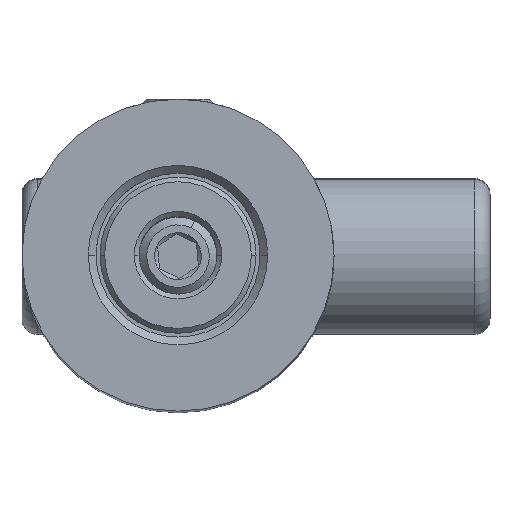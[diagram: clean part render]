
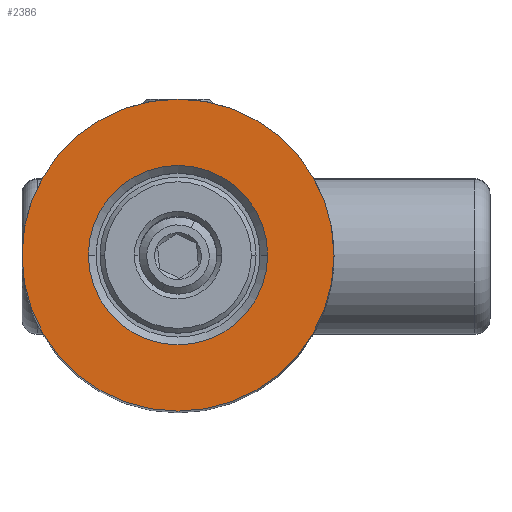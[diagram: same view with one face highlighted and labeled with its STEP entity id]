
A CAD part, top view. The second image highlights one B-rep face of the part: STEP entity #2386.
In plain terms, the highlighted planar face has unit normal (0, 0, 1).
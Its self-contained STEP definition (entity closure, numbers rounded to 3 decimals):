
#59 = DIRECTION ( 'NONE',  ( 0., 0., -1. ) ) ;
#199 = DIRECTION ( 'NONE',  ( 1., 0., 0. ) ) ;
#241 = FACE_BOUND ( 'NONE', #2393, .T. ) ;
#250 = CARTESIAN_POINT ( 'NONE',  ( 5.75, 0., 65. ) ) ;
#340 = CIRCLE ( 'NONE', #1201, 10. ) ;
#360 = CARTESIAN_POINT ( 'NONE',  ( 10., 0., 65. ) ) ;
#369 = DIRECTION ( 'NONE',  ( 0., 0., 1. ) ) ;
#603 = DIRECTION ( 'NONE',  ( 1., 0., 0. ) ) ;
#837 = EDGE_CURVE ( 'NONE', #2186, #1972, #1155, .T. ) ;
#962 = EDGE_LOOP ( 'NONE', ( #1376, #2327 ) ) ;
#994 = CARTESIAN_POINT ( 'NONE',  ( -5.75, 0., 65. ) ) ;
#1023 = DIRECTION ( 'NONE',  ( 1., 0., 0. ) ) ;
#1091 = AXIS2_PLACEMENT_3D ( 'NONE', #2224, #59, #1023 ) ;
#1155 = CIRCLE ( 'NONE', #1560, 10. ) ;
#1201 = AXIS2_PLACEMENT_3D ( 'NONE', #3051, #369, #1792 ) ;
#1261 = DIRECTION ( 'NONE',  ( 0., 0., 1. ) ) ;
#1274 = EDGE_CURVE ( 'NONE', #2606, #1985, #2901, .T. ) ;
#1302 = DIRECTION ( 'NONE',  ( 0., 0., 1. ) ) ;
#1309 = ORIENTED_EDGE ( 'NONE', *, *, #1274, .T. ) ;
#1376 = ORIENTED_EDGE ( 'NONE', *, *, #2962, .T. ) ;
#1507 = FACE_OUTER_BOUND ( 'NONE', #962, .T. ) ;
#1560 = AXIS2_PLACEMENT_3D ( 'NONE', #2243, #1302, #603 ) ;
#1792 = DIRECTION ( 'NONE',  ( 1., 0., 0. ) ) ;
#1972 = VERTEX_POINT ( 'NONE', #2394 ) ;
#1985 = VERTEX_POINT ( 'NONE', #994 ) ;
#2046 = CIRCLE ( 'NONE', #1091, 5.75 ) ;
#2057 = EDGE_CURVE ( 'NONE', #1985, #2606, #2046, .T. ) ;
#2106 = DIRECTION ( 'NONE',  ( 0., 0., -1. ) ) ;
#2186 = VERTEX_POINT ( 'NONE', #360 ) ;
#2193 = PLANE ( 'NONE',  #2698 ) ;
#2224 = CARTESIAN_POINT ( 'NONE',  ( 0., 0., 65. ) ) ;
#2225 = DIRECTION ( 'NONE',  ( 1., 0., 0. ) ) ;
#2243 = CARTESIAN_POINT ( 'NONE',  ( 0., 0., 65. ) ) ;
#2327 = ORIENTED_EDGE ( 'NONE', *, *, #837, .T. ) ;
#2360 = ORIENTED_EDGE ( 'NONE', *, *, #2057, .T. ) ;
#2386 = ADVANCED_FACE ( 'NONE', ( #241, #1507 ), #2193, .T. ) ;
#2393 = EDGE_LOOP ( 'NONE', ( #1309, #2360 ) ) ;
#2394 = CARTESIAN_POINT ( 'NONE',  ( -10., 0., 65. ) ) ;
#2606 = VERTEX_POINT ( 'NONE', #250 ) ;
#2660 = CARTESIAN_POINT ( 'NONE',  ( 0., 0., 65. ) ) ;
#2693 = AXIS2_PLACEMENT_3D ( 'NONE', #2777, #2106, #199 ) ;
#2698 = AXIS2_PLACEMENT_3D ( 'NONE', #2660, #1261, #2225 ) ;
#2777 = CARTESIAN_POINT ( 'NONE',  ( 0., 0., 65. ) ) ;
#2901 = CIRCLE ( 'NONE', #2693, 5.75 ) ;
#2962 = EDGE_CURVE ( 'NONE', #1972, #2186, #340, .T. ) ;
#3051 = CARTESIAN_POINT ( 'NONE',  ( 0., 0., 65. ) ) ;
